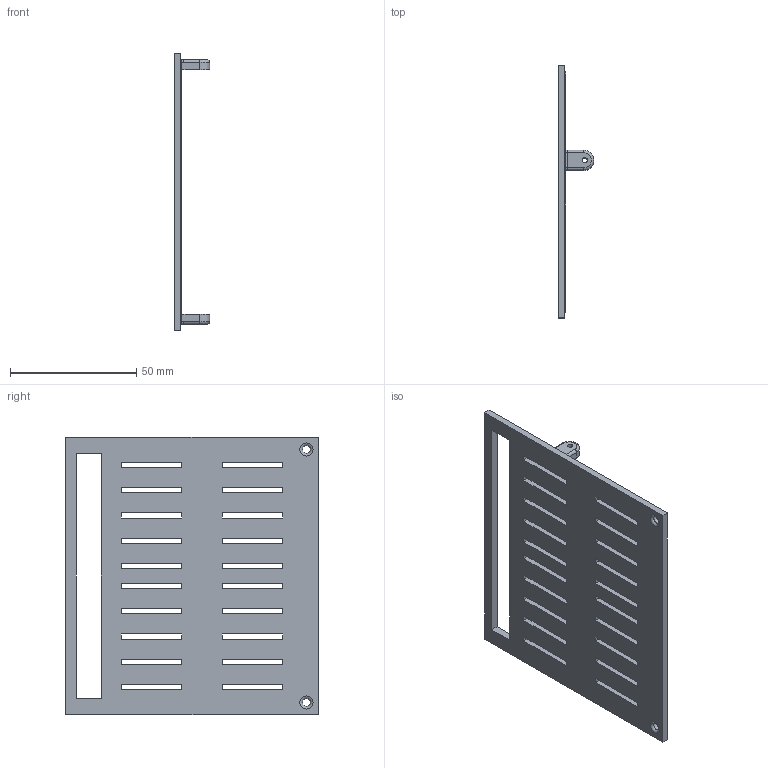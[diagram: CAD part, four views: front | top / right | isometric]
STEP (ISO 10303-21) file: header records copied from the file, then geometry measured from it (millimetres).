
FILE_DESCRIPTION(('STEP AP203'), '1');
FILE_NAME('Êðûøêà äëÿ áëîêà ïèòàíèÿ Aldal (ïëàíøåòíûé)', '', ('UNSPECIFIED'), ('UNSPECIFIED'), 'C3D Converter', 'C3D Toolkit', '');
FILE_SCHEMA(('CONFIG_CONTROL_DESIGN'));
Length unit declared in the file: millimetre
Bounding box: 14 x 100 x 110 mm (x, y, z)
Volume: 27241.8 mm3; surface area: 23654.5 mm2
Topology: 1 solids, 1 shells, 123 faces, 346 edges, 226 vertices
Faces by surface type: plane 103, cylinder 12, torus 8
Full cylindrical faces by diameter (mm): 2 x2, 3.2 x2
Entity records: 5089 total; most frequent: CARTESIAN_POINT 798, ORIENTED_EDGE 680, DIRECTION 616, EDGE_CURVE 340, LINE 304, VECTOR 304, VERTEX_POINT 226, EDGE_LOOP 180
